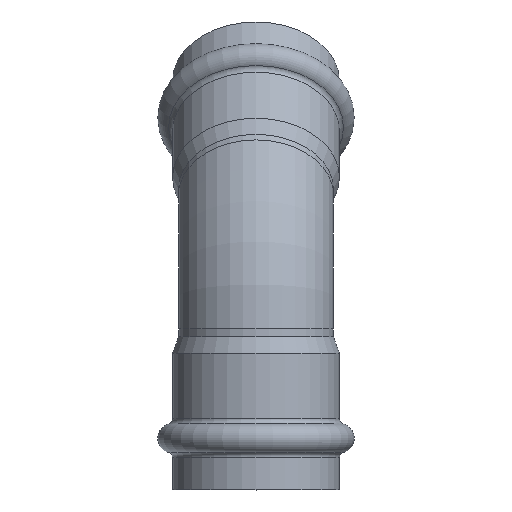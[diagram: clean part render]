
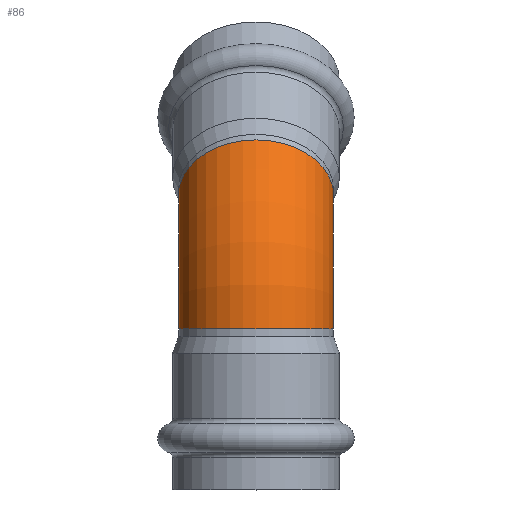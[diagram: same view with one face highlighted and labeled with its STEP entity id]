
A CAD part, top view. The second image highlights one B-rep face of the part: STEP entity #86.
In plain terms, the highlighted toroidal (fillet/blend) face has major radius 51.5 mm and minor radius 21 mm.
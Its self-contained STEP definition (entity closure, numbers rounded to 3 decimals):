
#86=ADVANCED_FACE('',(#384,#386),#388,.T.);
#384=FACE_BOUND('',#385,.T.);
#385=EDGE_LOOP('',(#474,#475));
#386=FACE_OUTER_BOUND('',#387,.T.);
#387=EDGE_LOOP('',(#476));
#388=TOROIDAL_SURFACE('',#389,51.5,21.);
#389=AXIS2_PLACEMENT_3D('',#390,#391,#392);
#390=CARTESIAN_POINT('',(0.,43.668,-51.5));
#391=DIRECTION('',(-1.,0.,0.));
#392=DIRECTION('',(0.,0.,1.));
#474=ORIENTED_EDGE('',*,*,#518,.T.);
#475=ORIENTED_EDGE('',*,*,#517,.T.);
#476=ORIENTED_EDGE('',*,*,#516,.F.);
#516=EDGE_CURVE('',#597,#597,#598,.T.);
#517=EDGE_CURVE('',#599,#600,#601,.T.);
#518=EDGE_CURVE('',#600,#599,#602,.T.);
#597=VERTEX_POINT('',#798);
#598=CIRCLE('',#799,21.);
#599=VERTEX_POINT('',#803);
#600=VERTEX_POINT('',#804);
#601=CIRCLE('',#805,21.);
#602=CIRCLE('',#809,21.);
#798=CARTESIAN_POINT('',(-21.,80.084,-15.084));
#799=AXIS2_PLACEMENT_3D('',#800,#801,#802);
#800=CARTESIAN_POINT('',(0.,80.084,-15.084));
#801=DIRECTION('',(0.,0.707,-0.707));
#802=DIRECTION('',(-1.,0.,0.));
#803=CARTESIAN_POINT('',(-21.,43.668,0.));
#804=CARTESIAN_POINT('',(0.,43.668,21.));
#805=AXIS2_PLACEMENT_3D('',#806,#807,#808);
#806=CARTESIAN_POINT('',(0.,43.668,0.));
#807=DIRECTION('',(0.,1.,0.));
#808=DIRECTION('',(-1.,0.,0.));
#809=AXIS2_PLACEMENT_3D('',#810,#811,#812);
#810=CARTESIAN_POINT('',(0.,43.668,0.));
#811=DIRECTION('',(0.,1.,0.));
#812=DIRECTION('',(0.,0.,1.));
